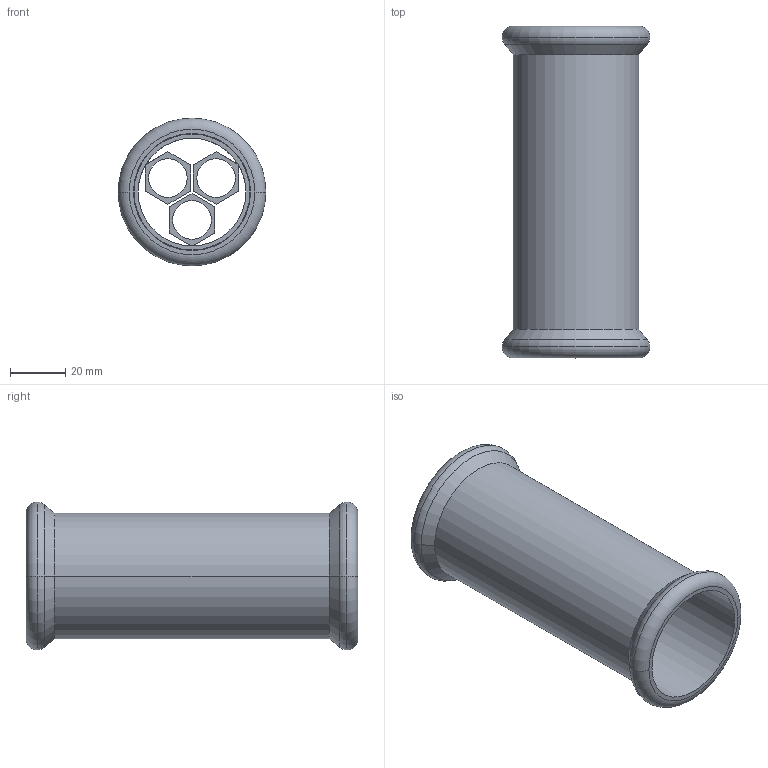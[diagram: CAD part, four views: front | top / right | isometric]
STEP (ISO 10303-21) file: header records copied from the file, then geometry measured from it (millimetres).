
FILE_DESCRIPTION(('OneSpaceDesigner STEP Export'),'2;1');
FILE_NAME('R2703 42x42.stp','2010-06-09T 9:14:20',(''),(''),'OneSpace Designer STEP processor for AP214 (Solid Model)','OneSpace Modeling 15.00A 14-Mar-2007 (C) CoCreate Software GmbH','');
FILE_SCHEMA(('AUTOMOTIVE_DESIGN { 1 0 10303 214 1 1 1 1 }'));
Length unit declared in the file: millimetre
Products named in the file (2): R2703_42x42
Assembly tree (1 placements, depth 2):
  R2703_42x42
    R2703_42x42
Bounding box: 53.55 x 120.2 x 53.55 mm (x, y, z)
Volume: 47883 mm3; surface area: 37607.3 mm2
Topology: 1 solids, 1 shells, 102 faces, 260 edges, 170 vertices
Faces by surface type: plane 60, cylinder 30, torus 8, cone 4
Entity records: 2781 total; most frequent: ORIENTED_EDGE 520, CARTESIAN_POINT 456, DIRECTION 406, EDGE_CURVE 260, VERTEX_POINT 170, VECTOR 166, LINE 166, EDGE_LOOP 126
